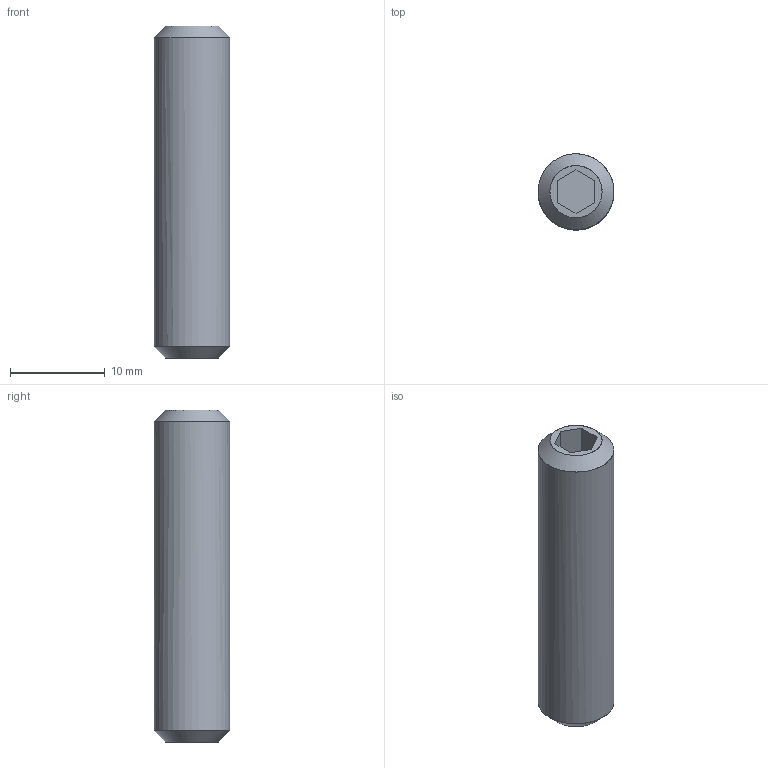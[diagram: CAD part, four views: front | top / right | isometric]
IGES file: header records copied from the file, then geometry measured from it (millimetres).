
Global section: file name: E:\UnigraphicsGraphicData\MISUMI_MOLD-PARTS\NX\3d_ai8_00910_r00.igs; native system: NX V5.0; preprocessor: UGS NX IGES V5.0; author: MISUMI; date: 20101115.182440; units: millimetre
Bounding box: 8 x 8 x 35 mm (x, y, z)
Surface area: 1052 mm2 (no closed solid volume)
Topology: 0 solids, 0 shells, 19 faces, 101 edges, 96 vertices
Faces by surface type: bspline 19
